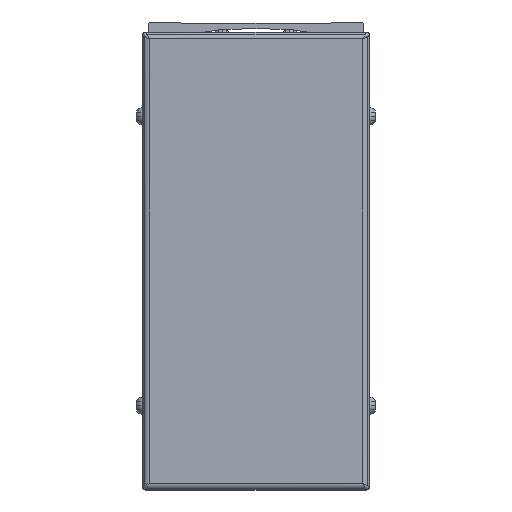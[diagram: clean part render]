
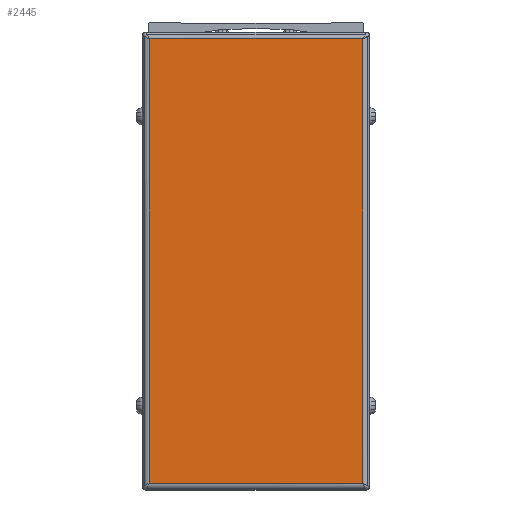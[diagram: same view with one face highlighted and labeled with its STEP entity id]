
A CAD part, front view. The second image highlights one B-rep face of the part: STEP entity #2445.
In plain terms, the highlighted planar face has unit normal (0, -1, 0).
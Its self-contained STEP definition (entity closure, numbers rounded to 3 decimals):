
#2445=ADVANCED_FACE('',(#6291),#6292,.T.);
#6291=FACE_OUTER_BOUND('',#11997,.T.);
#6292=PLANE('',#11998);
#11997=EDGE_LOOP('',(#19114,#19115,#19116,#19117));
#11998=AXIS2_PLACEMENT_3D('',#19118,#19119,#19120);
#19114=ORIENTED_EDGE('',*,*,#34629,.F.);
#19115=ORIENTED_EDGE('',*,*,#34630,.F.);
#19116=ORIENTED_EDGE('',*,*,#34631,.F.);
#19117=ORIENTED_EDGE('',*,*,#34632,.F.);
#19118=CARTESIAN_POINT('',(300.,81.,-44.));
#19119=DIRECTION('',(0.,-1.0,0.));
#19120=DIRECTION('',(0.,0.,1.0));
#34629=EDGE_CURVE('',#41330,#41331,#41332,.T.);
#34630=EDGE_CURVE('',#41333,#41330,#41334,.T.);
#34631=EDGE_CURVE('',#41335,#41333,#41336,.T.);
#34632=EDGE_CURVE('',#41331,#41335,#41337,.T.);
#41330=VERTEX_POINT('',#50921);
#41331=VERTEX_POINT('',#50922);
#41332=LINE('',#50923,#50924);
#41333=VERTEX_POINT('',#50925);
#41334=LINE('',#50926,#50927);
#41335=VERTEX_POINT('',#50928);
#41336=LINE('',#50929,#50930);
#41337=LINE('',#50931,#50932);
#50921=CARTESIAN_POINT('',(268.3,81.,22.));
#50922=CARTESIAN_POINT('',(331.7,81.,22.));
#50923=CARTESIAN_POINT('',(300.,81.,22.));
#50924=VECTOR('',#63540,10.0);
#50925=CARTESIAN_POINT('',(268.3,81.,-110.));
#50926=CARTESIAN_POINT('',(268.3,81.,-44.));
#50927=VECTOR('',#63541,10.0);
#50928=CARTESIAN_POINT('',(331.7,81.,-110.));
#50929=CARTESIAN_POINT('',(300.,81.,-110.));
#50930=VECTOR('',#63542,10.0);
#50931=CARTESIAN_POINT('',(331.7,81.,-44.));
#50932=VECTOR('',#63543,10.0);
#63540=DIRECTION('',(1.0,0.,0.));
#63541=DIRECTION('',(0.,0.,1.0));
#63542=DIRECTION('',(-1.0,0.,0.));
#63543=DIRECTION('',(0.,0.,-1.0));
